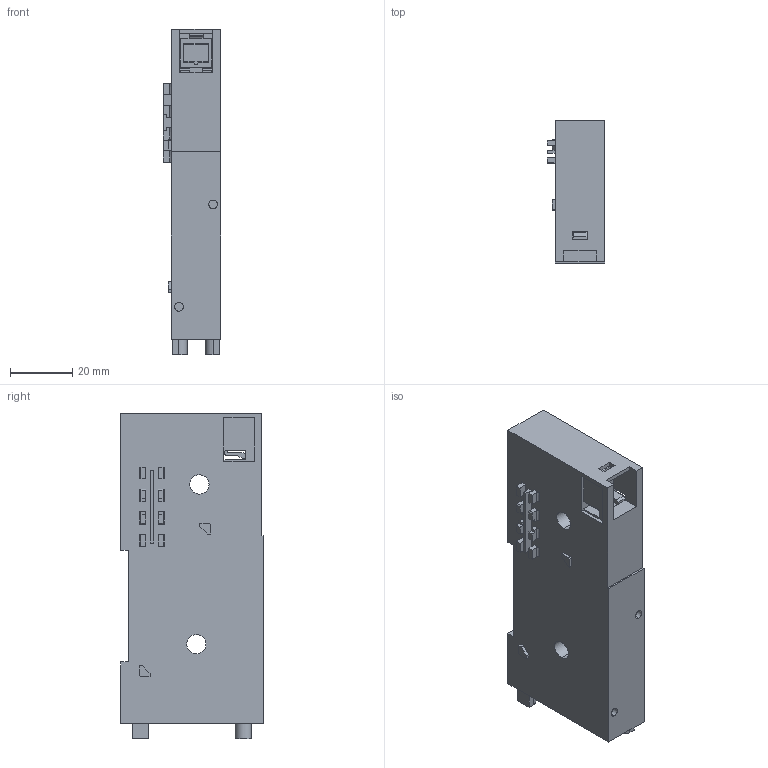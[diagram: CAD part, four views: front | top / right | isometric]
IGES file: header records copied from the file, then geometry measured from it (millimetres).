
Start section: ------------------------------------------------------------------------
Global section: file name: D:\ICADMX\tmp\trans3d_spg\CVICAD02.4984.F15ZX_ValveBaseAssy_18944.igs; native system: spGate; preprocessor: ver12.6.6; author: Unknown; organization: Unknown; date: 210712.185947; units: millimetre
Bounding box: 18.6 x 46 x 105 mm (x, y, z)
Volume: 68670.5 mm3; surface area: 16211.1 mm2
Topology: 1 solids, 1 shells, 261 faces, 703 edges, 464 vertices
Faces by surface type: bspline 261
